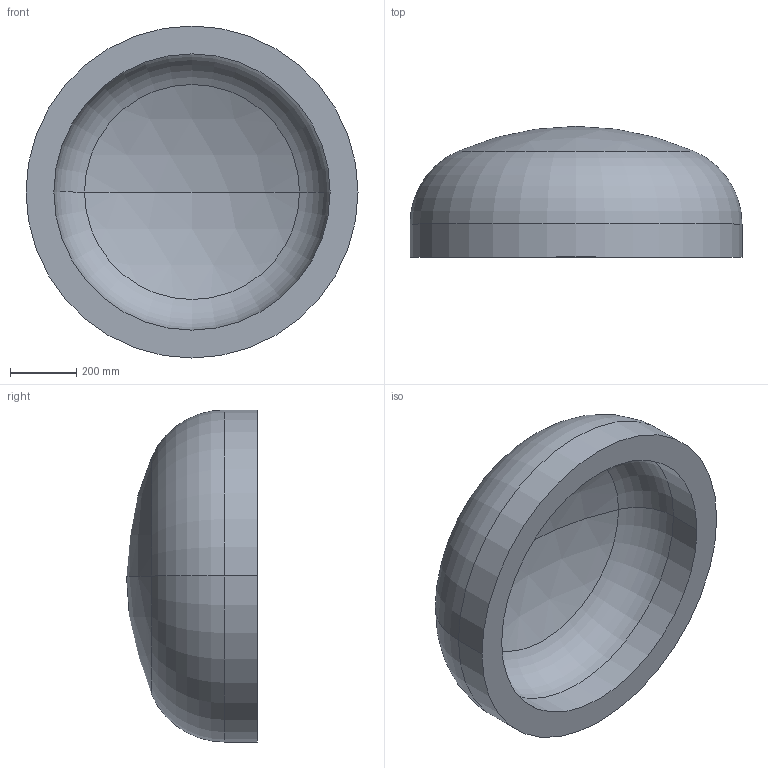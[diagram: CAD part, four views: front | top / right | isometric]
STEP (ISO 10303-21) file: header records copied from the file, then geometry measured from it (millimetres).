
FILE_DESCRIPTION (( 'STEP AP203' ), '1' );
FILE_NAME ('DIN 28013 Korbbogenform_-_Boden DIN 28013 - 1000 x 100 - I - s=84.step', '2016-07-01T08:54:54', ( '' ), ( '' ), 'SwSTEP 2.0', 'SolidWorks 2013', '' );
FILE_SCHEMA (( 'CONFIG_CONTROL_DESIGN' ));
Length unit declared in the file: millimetre
Products named in the file (1): DIN 28013 Korbbogenform_-_Boden DIN 28013 - 1000 x 100 - I - s=84
Bounding box: 1000 x 394.17 x 1000 mm (x, y, z)
Volume: 106539205.6 mm3; surface area: 2793152.1 mm2
Topology: 1 solids, 1 shells, 13 faces, 24 edges, 14 vertices
Faces by surface type: torus 4, cylinder 4, sphere 4, plane 1
Entity records: 407 total; most frequent: DIRECTION 72, CARTESIAN_POINT 52, ORIENTED_EDGE 48, AXIS2_PLACEMENT_3D 34, EDGE_CURVE 24, CIRCLE 20, EDGE_LOOP 14, VERTEX_POINT 14
